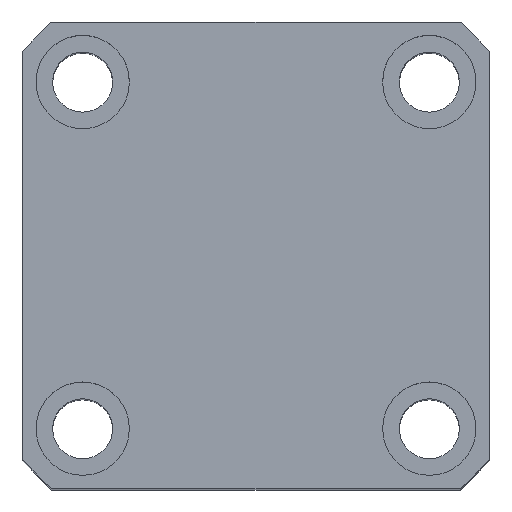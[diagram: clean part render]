
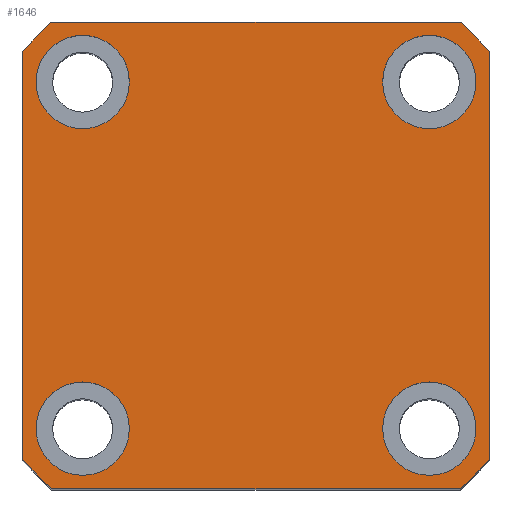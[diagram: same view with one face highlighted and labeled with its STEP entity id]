
A CAD part, top view. The second image highlights one B-rep face of the part: STEP entity #1646.
In plain terms, the highlighted planar face has unit normal (0, 0, 1).
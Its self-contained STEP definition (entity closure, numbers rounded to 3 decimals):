
#582 = ORIENTED_EDGE ( 'NONE', *, *, #12086, .T. ) ;
#688 = EDGE_LOOP ( 'NONE', ( #6351, #1152 ) ) ;
#698 = ORIENTED_EDGE ( 'NONE', *, *, #2017, .F. ) ;
#717 = ORIENTED_EDGE ( 'NONE', *, *, #5907, .T. ) ;
#920 = VERTEX_POINT ( 'NONE', #6863 ) ;
#1048 = VECTOR ( 'NONE', #3673, 1000. ) ;
#1152 = ORIENTED_EDGE ( 'NONE', *, *, #9508, .F. ) ;
#1315 = VERTEX_POINT ( 'NONE', #10107 ) ;
#1349 = EDGE_CURVE ( 'NONE', #2758, #4074, #11652, .T. ) ;
#1560 = CARTESIAN_POINT ( 'NONE',  ( 26., 26., 115. ) ) ;
#1567 = CARTESIAN_POINT ( 'NONE',  ( 0., 0., 115. ) ) ;
#1646 = ADVANCED_FACE ( 'NONE', ( #2020, #7584, #4783, #7257, #4469 ), #11925, .T. ) ;
#1648 = DIRECTION ( 'NONE',  ( -1., 0., 0. ) ) ;
#1748 = CARTESIAN_POINT ( 'NONE',  ( -19., 26., 115. ) ) ;
#1773 = AXIS2_PLACEMENT_3D ( 'NONE', #10829, #4585, #11885 ) ;
#1777 = CARTESIAN_POINT ( 'NONE',  ( -35., 30.615, 115. ) ) ;
#1778 = AXIS2_PLACEMENT_3D ( 'NONE', #12102, #5861, #13165 ) ;
#1896 = DIRECTION ( 'NONE',  ( 0., 0., 1. ) ) ;
#1934 = CARTESIAN_POINT ( 'NONE',  ( 19., -26., 115. ) ) ;
#2017 = EDGE_CURVE ( 'NONE', #12322, #920, #5944, .T. ) ;
#2020 = FACE_BOUND ( 'NONE', #4241, .T. ) ;
#2099 = EDGE_CURVE ( 'NONE', #3765, #11836, #10505, .T. ) ;
#2124 = EDGE_CURVE ( 'NONE', #2490, #4389, #4961, .T. ) ;
#2159 = CARTESIAN_POINT ( 'NONE',  ( -19., -26., 115. ) ) ;
#2314 = EDGE_CURVE ( 'NONE', #4389, #2490, #13290, .T. ) ;
#2346 = ORIENTED_EDGE ( 'NONE', *, *, #2124, .F. ) ;
#2490 = VERTEX_POINT ( 'NONE', #1748 ) ;
#2616 = DIRECTION ( 'NONE',  ( 1., 0., 0. ) ) ;
#2623 = DIRECTION ( 'NONE',  ( 1., 0., 0. ) ) ;
#2758 = VERTEX_POINT ( 'NONE', #2159 ) ;
#2950 = DIRECTION ( 'NONE',  ( 0., 0., 1. ) ) ;
#3309 = CIRCLE ( 'NONE', #10174, 46.5 ) ;
#3353 = AXIS2_PLACEMENT_3D ( 'NONE', #4200, #11487, #5249 ) ;
#3600 = DIRECTION ( 'NONE',  ( 0., 1., 0. ) ) ;
#3638 = AXIS2_PLACEMENT_3D ( 'NONE', #8361, #5463, #8668 ) ;
#3673 = DIRECTION ( 'NONE',  ( 1., 0., 0. ) ) ;
#3765 = VERTEX_POINT ( 'NONE', #4671 ) ;
#3801 = DIRECTION ( 'NONE',  ( 1., 0., 0. ) ) ;
#3850 = DIRECTION ( 'NONE',  ( 0., 0., 1. ) ) ;
#4074 = VERTEX_POINT ( 'NONE', #12505 ) ;
#4130 = ORIENTED_EDGE ( 'NONE', *, *, #4683, .T. ) ;
#4200 = CARTESIAN_POINT ( 'NONE',  ( 0., 0., 115. ) ) ;
#4241 = EDGE_LOOP ( 'NONE', ( #5545, #10730 ) ) ;
#4310 = DIRECTION ( 'NONE',  ( 0., 0., 1. ) ) ;
#4389 = VERTEX_POINT ( 'NONE', #9679 ) ;
#4469 = FACE_OUTER_BOUND ( 'NONE', #4608, .T. ) ;
#4480 = EDGE_CURVE ( 'NONE', #9554, #10138, #12607, .T. ) ;
#4585 = DIRECTION ( 'NONE',  ( 0., 0., 1. ) ) ;
#4598 = AXIS2_PLACEMENT_3D ( 'NONE', #11086, #3850, #3801 ) ;
#4608 = EDGE_LOOP ( 'NONE', ( #6635, #10297, #5274, #582, #717, #4889, #7642, #4130 ) ) ;
#4671 = CARTESIAN_POINT ( 'NONE',  ( 30.615, 35., 115. ) ) ;
#4683 = EDGE_CURVE ( 'NONE', #5883, #9554, #8852, .T. ) ;
#4783 = FACE_BOUND ( 'NONE', #688, .T. ) ;
#4889 = ORIENTED_EDGE ( 'NONE', *, *, #12207, .T. ) ;
#4961 = CIRCLE ( 'NONE', #1778, 7. ) ;
#4975 = DIRECTION ( 'NONE',  ( 0., 0., 1. ) ) ;
#4998 = CARTESIAN_POINT ( 'NONE',  ( -26., 26., 115. ) ) ;
#5010 = CARTESIAN_POINT ( 'NONE',  ( 35., -30.615, 115. ) ) ;
#5249 = DIRECTION ( 'NONE',  ( 1., 0., 0. ) ) ;
#5274 = ORIENTED_EDGE ( 'NONE', *, *, #2099, .T. ) ;
#5282 = AXIS2_PLACEMENT_3D ( 'NONE', #1567, #8889, #2623 ) ;
#5286 = AXIS2_PLACEMENT_3D ( 'NONE', #4998, #12289, #6041 ) ;
#5463 = DIRECTION ( 'NONE',  ( 0., 0., 1. ) ) ;
#5511 = EDGE_LOOP ( 'NONE', ( #2346, #5532 ) ) ;
#5532 = ORIENTED_EDGE ( 'NONE', *, *, #2314, .F. ) ;
#5545 = ORIENTED_EDGE ( 'NONE', *, *, #1349, .F. ) ;
#5763 = DIRECTION ( 'NONE',  ( 0., 0., 1. ) ) ;
#5816 = CARTESIAN_POINT ( 'NONE',  ( -35., 35., 115. ) ) ;
#5861 = DIRECTION ( 'NONE',  ( 0., 0., 1. ) ) ;
#5883 = VERTEX_POINT ( 'NONE', #12797 ) ;
#5907 = EDGE_CURVE ( 'NONE', #6526, #1315, #11352, .T. ) ;
#5944 = CIRCLE ( 'NONE', #12537, 7. ) ;
#5962 = CIRCLE ( 'NONE', #9495, 7. ) ;
#6041 = DIRECTION ( 'NONE',  ( 1., 0., 0. ) ) ;
#6101 = CIRCLE ( 'NONE', #10927, 7. ) ;
#6351 = ORIENTED_EDGE ( 'NONE', *, *, #11021, .F. ) ;
#6388 = CARTESIAN_POINT ( 'NONE',  ( -30.615, -35., 115. ) ) ;
#6526 = VERTEX_POINT ( 'NONE', #1777 ) ;
#6553 = CARTESIAN_POINT ( 'NONE',  ( -35., 35., 115. ) ) ;
#6635 = ORIENTED_EDGE ( 'NONE', *, *, #4480, .T. ) ;
#6761 = EDGE_CURVE ( 'NONE', #10138, #3765, #9877, .T. ) ;
#6863 = CARTESIAN_POINT ( 'NONE',  ( 33., -26., 115. ) ) ;
#7080 = CIRCLE ( 'NONE', #5282, 46.5 ) ;
#7242 = ORIENTED_EDGE ( 'NONE', *, *, #7409, .F. ) ;
#7257 = FACE_BOUND ( 'NONE', #5511, .T. ) ;
#7409 = EDGE_CURVE ( 'NONE', #920, #12322, #10701, .T. ) ;
#7584 = FACE_BOUND ( 'NONE', #11731, .T. ) ;
#7598 = DIRECTION ( 'NONE',  ( 0., -1., 0. ) ) ;
#7642 = ORIENTED_EDGE ( 'NONE', *, *, #10366, .T. ) ;
#7729 = CIRCLE ( 'NONE', #1773, 7. ) ;
#7737 = VECTOR ( 'NONE', #1648, 1000. ) ;
#8005 = AXIS2_PLACEMENT_3D ( 'NONE', #10563, #4310, #11600 ) ;
#8164 = CARTESIAN_POINT ( 'NONE',  ( 0., 0., 115. ) ) ;
#8361 = CARTESIAN_POINT ( 'NONE',  ( 0., 0., 115. ) ) ;
#8598 = VECTOR ( 'NONE', #7598, 1000. ) ;
#8668 = DIRECTION ( 'NONE',  ( 1., 0., 0. ) ) ;
#8852 = CIRCLE ( 'NONE', #9806, 46.5 ) ;
#8882 = DIRECTION ( 'NONE',  ( 0., 0., 1. ) ) ;
#8889 = DIRECTION ( 'NONE',  ( 0., 0., 1. ) ) ;
#9216 = DIRECTION ( 'NONE',  ( 1., 0., 0. ) ) ;
#9220 = CARTESIAN_POINT ( 'NONE',  ( 26., 26., 115. ) ) ;
#9392 = LINE ( 'NONE', #9931, #1048 ) ;
#9495 = AXIS2_PLACEMENT_3D ( 'NONE', #9220, #2950, #10249 ) ;
#9508 = EDGE_CURVE ( 'NONE', #11526, #11922, #5962, .T. ) ;
#9554 = VERTEX_POINT ( 'NONE', #5010 ) ;
#9679 = CARTESIAN_POINT ( 'NONE',  ( -33., 26., 115. ) ) ;
#9806 = AXIS2_PLACEMENT_3D ( 'NONE', #11209, #4975, #12268 ) ;
#9859 = CARTESIAN_POINT ( 'NONE',  ( 35., 35., 115. ) ) ;
#9877 = CIRCLE ( 'NONE', #3353, 46.5 ) ;
#9931 = CARTESIAN_POINT ( 'NONE',  ( -35., -35., 115. ) ) ;
#10107 = CARTESIAN_POINT ( 'NONE',  ( -35., -30.615, 115. ) ) ;
#10138 = VERTEX_POINT ( 'NONE', #13305 ) ;
#10174 = AXIS2_PLACEMENT_3D ( 'NONE', #8164, #1896, #9216 ) ;
#10249 = DIRECTION ( 'NONE',  ( 1., 0., 0. ) ) ;
#10297 = ORIENTED_EDGE ( 'NONE', *, *, #6761, .T. ) ;
#10366 = EDGE_CURVE ( 'NONE', #10953, #5883, #9392, .T. ) ;
#10480 = VECTOR ( 'NONE', #3600, 1000. ) ;
#10505 = LINE ( 'NONE', #5816, #7737 ) ;
#10563 = CARTESIAN_POINT ( 'NONE',  ( 26., -26., 115. ) ) ;
#10701 = CIRCLE ( 'NONE', #8005, 7. ) ;
#10730 = ORIENTED_EDGE ( 'NONE', *, *, #11931, .F. ) ;
#10829 = CARTESIAN_POINT ( 'NONE',  ( -26., -26., 115. ) ) ;
#10927 = AXIS2_PLACEMENT_3D ( 'NONE', #1560, #8882, #2616 ) ;
#10953 = VERTEX_POINT ( 'NONE', #6388 ) ;
#11021 = EDGE_CURVE ( 'NONE', #11922, #11526, #6101, .T. ) ;
#11086 = CARTESIAN_POINT ( 'NONE',  ( -26., -26., 115. ) ) ;
#11209 = CARTESIAN_POINT ( 'NONE',  ( 0., 0., 115. ) ) ;
#11352 = LINE ( 'NONE', #6553, #8598 ) ;
#11487 = DIRECTION ( 'NONE',  ( 0., 0., 1. ) ) ;
#11526 = VERTEX_POINT ( 'NONE', #13451 ) ;
#11600 = DIRECTION ( 'NONE',  ( 1., 0., 0. ) ) ;
#11652 = CIRCLE ( 'NONE', #4598, 7. ) ;
#11731 = EDGE_LOOP ( 'NONE', ( #7242, #698 ) ) ;
#11836 = VERTEX_POINT ( 'NONE', #12685 ) ;
#11885 = DIRECTION ( 'NONE',  ( 1., 0., 0. ) ) ;
#11922 = VERTEX_POINT ( 'NONE', #12907 ) ;
#11925 = PLANE ( 'NONE',  #3638 ) ;
#11931 = EDGE_CURVE ( 'NONE', #4074, #2758, #7729, .T. ) ;
#12008 = CARTESIAN_POINT ( 'NONE',  ( 26., -26., 115. ) ) ;
#12086 = EDGE_CURVE ( 'NONE', #11836, #6526, #7080, .T. ) ;
#12102 = CARTESIAN_POINT ( 'NONE',  ( -26., 26., 115. ) ) ;
#12207 = EDGE_CURVE ( 'NONE', #1315, #10953, #3309, .T. ) ;
#12268 = DIRECTION ( 'NONE',  ( 1., 0., 0. ) ) ;
#12289 = DIRECTION ( 'NONE',  ( 0., 0., 1. ) ) ;
#12322 = VERTEX_POINT ( 'NONE', #1934 ) ;
#12505 = CARTESIAN_POINT ( 'NONE',  ( -33., -26., 115. ) ) ;
#12537 = AXIS2_PLACEMENT_3D ( 'NONE', #12008, #5763, #13067 ) ;
#12607 = LINE ( 'NONE', #9859, #10480 ) ;
#12685 = CARTESIAN_POINT ( 'NONE',  ( -30.615, 35., 115. ) ) ;
#12797 = CARTESIAN_POINT ( 'NONE',  ( 30.615, -35., 115. ) ) ;
#12907 = CARTESIAN_POINT ( 'NONE',  ( 33., 26., 115. ) ) ;
#13067 = DIRECTION ( 'NONE',  ( 1., 0., 0. ) ) ;
#13165 = DIRECTION ( 'NONE',  ( 1., 0., 0. ) ) ;
#13290 = CIRCLE ( 'NONE', #5286, 7. ) ;
#13305 = CARTESIAN_POINT ( 'NONE',  ( 35., 30.615, 115. ) ) ;
#13451 = CARTESIAN_POINT ( 'NONE',  ( 19., 26., 115. ) ) ;
